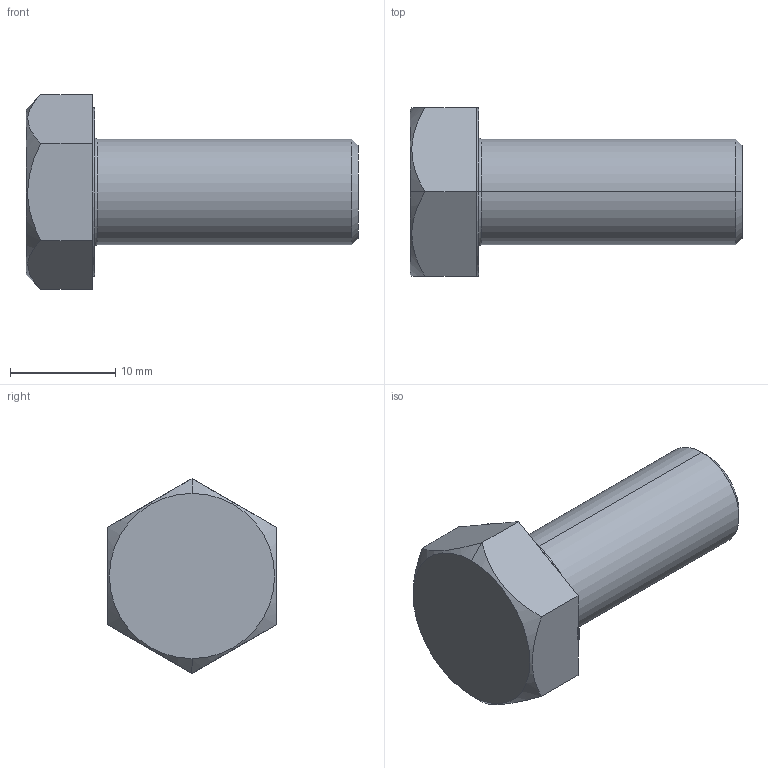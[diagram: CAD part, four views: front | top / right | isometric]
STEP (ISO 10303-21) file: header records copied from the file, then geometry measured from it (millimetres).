
FILE_DESCRIPTION (( 'STEP AP203' ), '1' );
FILE_NAME ('LGN-TD-M10x25.STEP', '2026-08-14T04:42:54', ( '' ), ( '' ), 'SwSTEP 2.0', 'SolidWorks 2020', '' );
FILE_SCHEMA (( 'CONFIG_CONTROL_DESIGN' ));
Length unit declared in the file: millimetre
Products named in the file (1): LGN-TD-M10x25
Bounding box: 31.5 x 16 x 18.48 mm (x, y, z)
Volume: 3383.9 mm3; surface area: 1551.9 mm2
Topology: 1 solids, 1 shells, 25 faces, 54 edges, 32 vertices
Faces by surface type: plane 15, cone 4, cylinder 4, torus 2
Entity records: 811 total; most frequent: CARTESIAN_POINT 184, DIRECTION 122, ORIENTED_EDGE 108, EDGE_CURVE 54, AXIS2_PLACEMENT_3D 48, VERTEX_POINT 32, LINE 26, EDGE_LOOP 26
